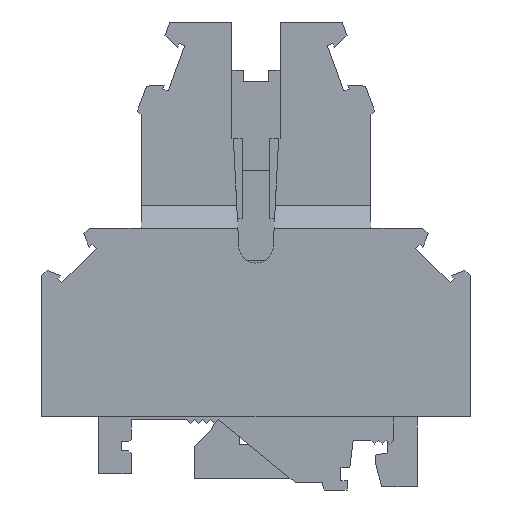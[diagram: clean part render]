
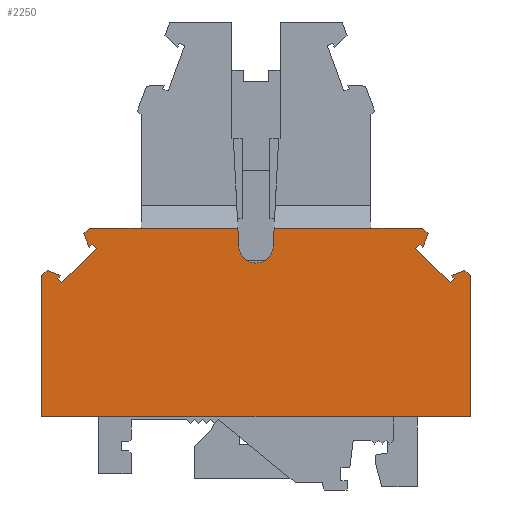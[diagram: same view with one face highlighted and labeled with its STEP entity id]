
A CAD part, left-side view. The second image highlights one B-rep face of the part: STEP entity #2250.
In plain terms, the highlighted planar face has unit normal (-1, 0, 0) as drawn and (0, 0, 1) by its records, which use the part's own axes.
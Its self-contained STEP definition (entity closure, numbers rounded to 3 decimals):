
#10=CARTESIAN_POINT('',(41.061,68.703,0.));
#20=DIRECTION('',(0.,0.,1.));
#30=DIRECTION('',(1.,0.,0.));
#40=AXIS2_PLACEMENT_3D('',#10,#20,#30);
#50=PLANE('',#40);
#60=CARTESIAN_POINT('',(48.479,60.231,
0.));
#70=DIRECTION('',(-0.707,0.707,0.));
#80=VECTOR('',#70,1.);
#90=LINE('',#60,#80);
#100=CARTESIAN_POINT('',(26.263,82.447,
0.));
#110=VERTEX_POINT('',#100);
#120=CARTESIAN_POINT('',(25.718,82.992,
0.));
#130=VERTEX_POINT('',#120);
#140=EDGE_CURVE('',#110,#130,#90,.T.);
#150=ORIENTED_EDGE('',*,*,#140,.F.);
#160=CARTESIAN_POINT('',(47.147,104.421,
0.));
#170=DIRECTION('',(-0.707,-0.707,0.));
#180=VECTOR('',#170,1.);
#190=LINE('',#160,#180);
#200=CARTESIAN_POINT('',(25.345,82.619,
0.));
#210=VERTEX_POINT('',#200);
#220=EDGE_CURVE('',#130,#210,#190,.T.);
#230=ORIENTED_EDGE('',*,*,#220,.F.);
#240=CARTESIAN_POINT('',(33.982,60.44,
0.));
#250=DIRECTION('',(-0.363,0.932,0.));
#260=VECTOR('',#250,1.);
#270=LINE('',#240,#260);
#280=CARTESIAN_POINT('',(24.659,84.379,
0.));
#290=VERTEX_POINT('',#280);
#300=EDGE_CURVE('',#210,#290,#270,.T.);
#310=ORIENTED_EDGE('',*,*,#300,.F.);
#320=CARTESIAN_POINT('',(47.147,106.868,
0.));
#330=DIRECTION('',(0.707,0.707,0.));
#340=VECTOR('',#330,1.);
#350=LINE('',#320,#340);
#360=CARTESIAN_POINT('',(25.37,85.09,
0.));
#370=VERTEX_POINT('',#360);
#380=EDGE_CURVE('',#290,#370,#350,.T.);
#390=ORIENTED_EDGE('',*,*,#380,.F.);
#400=CARTESIAN_POINT('',(47.147,85.09,
0.));
#410=DIRECTION('',(-1.,0.,0.));
#420=VECTOR('',#410,1.);
#430=LINE('',#400,#420);
#440=CARTESIAN_POINT('',(32.147,85.09,
0.));
#450=VERTEX_POINT('',#440);
#460=EDGE_CURVE('',#450,#370,#430,.T.);
#470=ORIENTED_EDGE('',*,*,#460,.T.);
#480=CARTESIAN_POINT('',(47.147,85.09,
0.));
#490=DIRECTION('',(-1.,0.,0.));
#500=VECTOR('',#490,1.);
#510=LINE('',#480,#500);
#520=CARTESIAN_POINT('',(44.779,85.09,
0.));
#530=VERTEX_POINT('',#520);
#540=EDGE_CURVE('',#530,#450,#510,.T.);
#550=ORIENTED_EDGE('',*,*,#540,.T.);
#560=CARTESIAN_POINT('',(46.025,60.231,
0.));
#570=DIRECTION('',(-0.05,0.999,0.));
#580=VECTOR('',#570,1.);
#590=LINE('',#560,#580);
#600=CARTESIAN_POINT('',(44.9,82.678,
0.));
#610=VERTEX_POINT('',#600);
#620=EDGE_CURVE('',#610,#530,#590,.T.);
#630=ORIENTED_EDGE('',*,*,#620,.T.);
#640=CARTESIAN_POINT('',(47.147,82.79,
0.));
#650=DIRECTION('',(0.,0.,1.));
#660=DIRECTION('',(1.,0.,0.));
#670=AXIS2_PLACEMENT_3D('',#640,#650,#660);
#680=CIRCLE('',#670,2.25);
#690=CARTESIAN_POINT('',(49.395,82.678,
0.));
#700=VERTEX_POINT('',#690);
#710=EDGE_CURVE('',#610,#700,#680,.T.);
#720=ORIENTED_EDGE('',*,*,#710,.F.);
#730=CARTESIAN_POINT('',(48.27,60.231,
0.));
#740=DIRECTION('',(-0.05,-0.999,0.));
#750=VECTOR('',#740,1.);
#760=LINE('',#730,#750);
#770=CARTESIAN_POINT('',(49.516,85.09,
0.));
#780=VERTEX_POINT('',#770);
#790=EDGE_CURVE('',#780,#700,#760,.T.);
#800=ORIENTED_EDGE('',*,*,#790,.T.);
#810=CARTESIAN_POINT('',(62.147,85.09,
0.));
#820=VERTEX_POINT('',#810);
#830=EDGE_CURVE('',#820,#780,#510,.T.);
#840=ORIENTED_EDGE('',*,*,#830,.T.);
#850=CARTESIAN_POINT('',(68.925,85.09,
0.));
#860=VERTEX_POINT('',#850);
#870=EDGE_CURVE('',#860,#820,#430,.T.);
#880=ORIENTED_EDGE('',*,*,#870,.T.);
#890=CARTESIAN_POINT('',(47.147,106.868,
0.));
#900=DIRECTION('',(-0.707,0.707,0.));
#910=VECTOR('',#900,1.);
#920=LINE('',#890,#910);
#930=CARTESIAN_POINT('',(69.636,84.379,
0.));
#940=VERTEX_POINT('',#930);
#950=EDGE_CURVE('',#940,#860,#920,.T.);
#960=ORIENTED_EDGE('',*,*,#950,.T.);
#970=CARTESIAN_POINT('',(60.313,60.44,
0.));
#980=DIRECTION('',(0.363,0.932,0.));
#990=VECTOR('',#980,1.);
#1000=LINE('',#970,#990);
#1010=CARTESIAN_POINT('',(68.95,82.619,
0.));
#1020=VERTEX_POINT('',#1010);
#1030=EDGE_CURVE('',#1020,#940,#1000,.T.);
#1040=ORIENTED_EDGE('',*,*,#1030,.T.);
#1050=CARTESIAN_POINT('',(47.147,104.421,
0.));
#1060=DIRECTION('',(0.707,-0.707,0.));
#1070=VECTOR('',#1060,1.);
#1080=LINE('',#1050,#1070);
#1090=CARTESIAN_POINT('',(68.577,82.992,
0.));
#1100=VERTEX_POINT('',#1090);
#1110=EDGE_CURVE('',#1100,#1020,#1080,.T.);
#1120=ORIENTED_EDGE('',*,*,#1110,.T.);
#1130=CARTESIAN_POINT('',(45.816,60.231,
0.));
#1140=DIRECTION('',(0.707,0.707,0.));
#1150=VECTOR('',#1140,1.);
#1160=LINE('',#1130,#1150);
#1170=CARTESIAN_POINT('',(68.032,82.447,
0.));
#1180=VERTEX_POINT('',#1170);
#1190=EDGE_CURVE('',#1180,#1100,#1160,.T.);
#1200=ORIENTED_EDGE('',*,*,#1190,.T.);
#1210=CARTESIAN_POINT('',(47.147,103.332,
0.));
#1220=DIRECTION('',(-0.707,0.707,0.));
#1230=VECTOR('',#1220,1.);
#1240=LINE('',#1210,#1230);
#1250=CARTESIAN_POINT('',(72.505,77.975,
0.));
#1260=VERTEX_POINT('',#1250);
#1270=EDGE_CURVE('',#1260,#1180,#1240,.T.);
#1280=ORIENTED_EDGE('',*,*,#1270,.T.);
#1290=CARTESIAN_POINT('',(54.97,60.44,
0.));
#1300=DIRECTION('',(-0.707,-0.707,0.));
#1310=VECTOR('',#1300,1.);
#1320=LINE('',#1290,#1310);
#1330=CARTESIAN_POINT('',(73.049,78.519,
0.));
#1340=VERTEX_POINT('',#1330);
#1350=EDGE_CURVE('',#1340,#1260,#1320,.T.);
#1360=ORIENTED_EDGE('',*,*,#1350,.T.);
#1370=CARTESIAN_POINT('',(47.147,104.421,
0.));
#1380=DIRECTION('',(0.707,-0.707,0.));
#1390=VECTOR('',#1380,1.);
#1400=LINE('',#1370,#1390);
#1410=CARTESIAN_POINT('',(72.676,78.893,
0.));
#1420=VERTEX_POINT('',#1410);
#1430=EDGE_CURVE('',#1420,#1340,#1400,.T.);
#1440=ORIENTED_EDGE('',*,*,#1430,.T.);
#1450=CARTESIAN_POINT('',(47.147,68.952,
0.));
#1460=DIRECTION('',(-0.932,-0.363,0.));
#1470=VECTOR('',#1460,1.);
#1480=LINE('',#1450,#1470);
#1490=CARTESIAN_POINT('',(74.437,79.578,
0.));
#1500=VERTEX_POINT('',#1490);
#1510=EDGE_CURVE('',#1500,#1420,#1480,.T.);
#1520=ORIENTED_EDGE('',*,*,#1510,.T.);
#1530=CARTESIAN_POINT('',(47.147,106.868,
0.));
#1540=DIRECTION('',(-0.707,0.707,0.));
#1550=VECTOR('',#1540,1.);
#1560=LINE('',#1530,#1550);
#1570=CARTESIAN_POINT('',(75.147,78.868,
0.));
#1580=VERTEX_POINT('',#1570);
#1590=EDGE_CURVE('',#1580,#1500,#1560,.T.);
#1600=ORIENTED_EDGE('',*,*,#1590,.T.);
#1610=CARTESIAN_POINT('',(75.147,60.44,
0.));
#1620=DIRECTION('',(0.,1.,0.));
#1630=VECTOR('',#1620,1.);
#1640=LINE('',#1610,#1630);
#1650=CARTESIAN_POINT('',(75.147,60.44,
0.));
#1660=VERTEX_POINT('',#1650);
#1670=EDGE_CURVE('',#1660,#1580,#1640,.T.);
#1680=ORIENTED_EDGE('',*,*,#1670,.T.);
#1690=CARTESIAN_POINT('',(47.147,60.44,
0.));
#1700=DIRECTION('',(-1.,0.,0.));
#1710=VECTOR('',#1700,1.);
#1720=LINE('',#1690,#1710);
#1730=CARTESIAN_POINT('',(19.147,60.44,
0.));
#1740=VERTEX_POINT('',#1730);
#1750=EDGE_CURVE('',#1660,#1740,#1720,.T.);
#1760=ORIENTED_EDGE('',*,*,#1750,.F.);
#1770=CARTESIAN_POINT('',(19.147,60.231,
0.));
#1780=DIRECTION('',(0.,-1.,0.));
#1790=VECTOR('',#1780,1.);
#1800=LINE('',#1770,#1790);
#1810=CARTESIAN_POINT('',(19.147,78.868,
0.));
#1820=VERTEX_POINT('',#1810);
#1830=EDGE_CURVE('',#1820,#1740,#1800,.T.);
#1840=ORIENTED_EDGE('',*,*,#1830,.T.);
#1850=CARTESIAN_POINT('',(47.147,106.868,
0.));
#1860=DIRECTION('',(0.707,0.707,0.));
#1870=VECTOR('',#1860,1.);
#1880=LINE('',#1850,#1870);
#1890=CARTESIAN_POINT('',(19.858,79.578,
0.));
#1900=VERTEX_POINT('',#1890);
#1910=EDGE_CURVE('',#1820,#1900,#1880,.T.);
#1920=ORIENTED_EDGE('',*,*,#1910,.F.);
#1930=CARTESIAN_POINT('',(47.147,68.952,
0.));
#1940=DIRECTION('',(0.932,-0.363,0.));
#1950=VECTOR('',#1940,1.);
#1960=LINE('',#1930,#1950);
#1970=CARTESIAN_POINT('',(21.619,78.893,
0.));
#1980=VERTEX_POINT('',#1970);
#1990=EDGE_CURVE('',#1900,#1980,#1960,.T.);
#2000=ORIENTED_EDGE('',*,*,#1990,.F.);
#2010=CARTESIAN_POINT('',(47.147,104.421,
0.));
#2020=DIRECTION('',(-0.707,-0.707,0.));
#2030=VECTOR('',#2020,1.);
#2040=LINE('',#2010,#2030);
#2050=CARTESIAN_POINT('',(21.246,78.519,
0.));
#2060=VERTEX_POINT('',#2050);
#2070=EDGE_CURVE('',#1980,#2060,#2040,.T.);
#2080=ORIENTED_EDGE('',*,*,#2070,.F.);
#2090=CARTESIAN_POINT('',(39.325,60.44,
0.));
#2100=DIRECTION('',(0.707,-0.707,0.));
#2110=VECTOR('',#2100,1.);
#2120=LINE('',#2090,#2110);
#2130=CARTESIAN_POINT('',(21.79,77.975,
0.));
#2140=VERTEX_POINT('',#2130);
#2150=EDGE_CURVE('',#2060,#2140,#2120,.T.);
#2160=ORIENTED_EDGE('',*,*,#2150,.F.);
#2170=CARTESIAN_POINT('',(47.147,103.332,
0.));
#2180=DIRECTION('',(0.707,0.707,0.));
#2190=VECTOR('',#2180,1.);
#2200=LINE('',#2170,#2190);
#2210=EDGE_CURVE('',#2140,#110,#2200,.T.);
#2220=ORIENTED_EDGE('',*,*,#2210,.F.);
#2230=EDGE_LOOP('',(#2220,#2160,#2080,#2000,#1920,#1840,#1760,#1680,
#1600,#1520,#1440,#1360,#1280,#1200,#1120,#1040,#960,#880,#840,#800,#720
,#630,#550,#470,#390,#310,#230,#150));
#2240=FACE_OUTER_BOUND('',#2230,.T.);
#2250=ADVANCED_FACE('',(#2240),#50,.T.);
